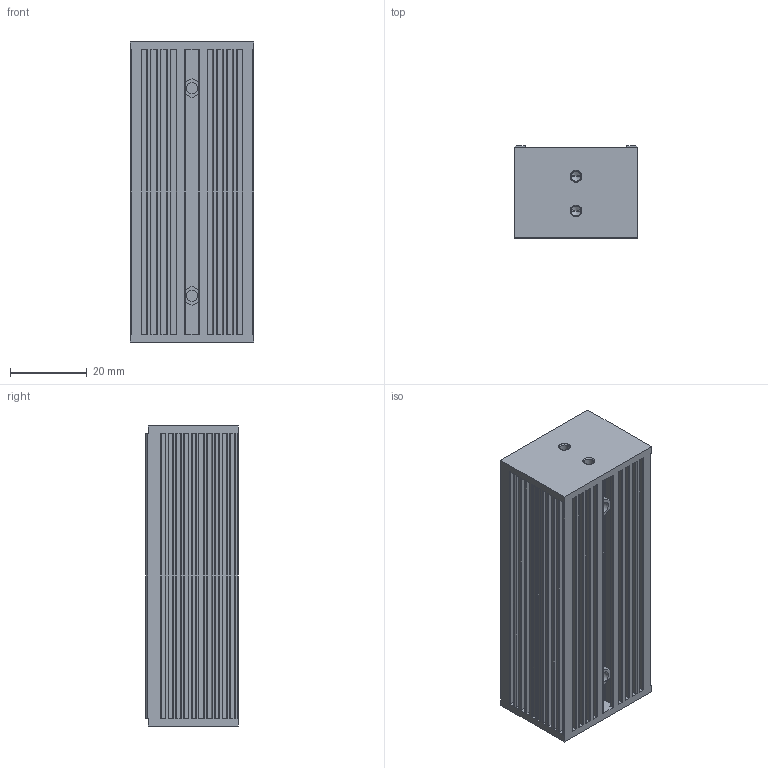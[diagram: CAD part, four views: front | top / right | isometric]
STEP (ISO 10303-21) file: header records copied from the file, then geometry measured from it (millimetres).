
FILE_DESCRIPTION((''),'2;1');
FILE_NAME('DSL32','2020-03-23T',('ASUS'),(''),'PRO/ENGINEER BY PARAMETRIC TECHNOLOGY CORPORATION, 2008380','PRO/ENGINEER BY PARAMETRIC TECHNOLOGY CORPORATION, 2008380','');
FILE_SCHEMA(('CONFIG_CONTROL_DESIGN'));
Length unit declared in the file: millimetre
Products named in the file (1): DSL32
Bounding box: 32 x 24 x 78 mm (x, y, z)
Volume: 53042.8 mm3; surface area: 18713.5 mm2
Topology: 1 solids, 5 shells, 305 faces, 780 edges, 512 vertices
Faces by surface type: plane 191, cylinder 94, cone 20
Entity records: 9205 total; most frequent: DIRECTION 1592, CARTESIAN_POINT 1590, ORIENTED_EDGE 1528, EDGE_CURVE 772, VECTOR 564, LINE 564, AXIS2_PLACEMENT_3D 514, VERTEX_POINT 512
